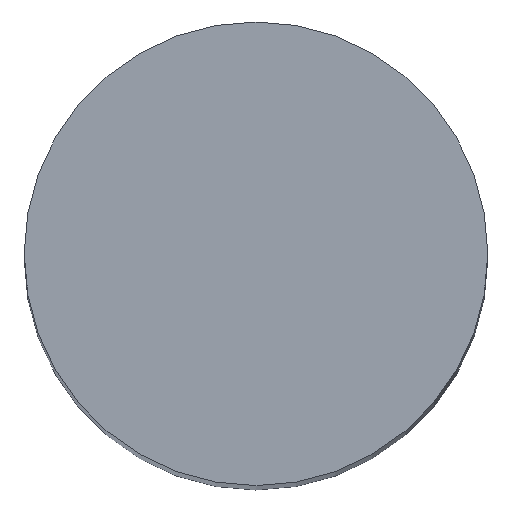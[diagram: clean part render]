
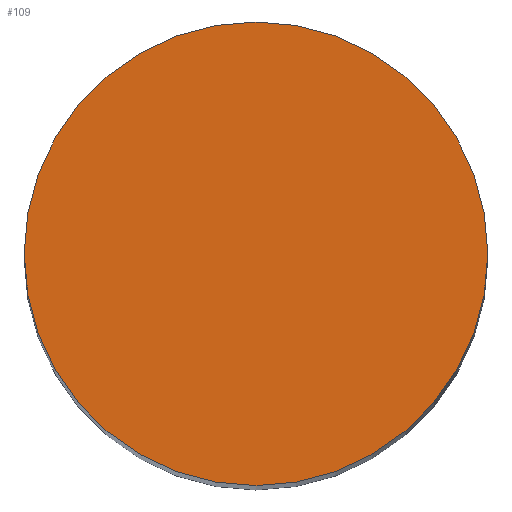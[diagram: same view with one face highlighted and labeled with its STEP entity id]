
A CAD part, top view. The second image highlights one B-rep face of the part: STEP entity #109.
In plain terms, the highlighted planar face has unit normal (0, 0, 1).
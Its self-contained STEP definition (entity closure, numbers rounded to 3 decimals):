
#24 = VERTEX_POINT('',#25);
#25 = CARTESIAN_POINT('',(36.,-30.,392.25));
#32 = CYLINDRICAL_SURFACE('',#33,36.);
#33 = AXIS2_PLACEMENT_3D('',#34,#35,#36);
#34 = CARTESIAN_POINT('',(0.,-30.,0.));
#35 = DIRECTION('',(-0.,-0.,-1.));
#36 = DIRECTION('',(1.,0.,0.));
#51 = EDGE_CURVE('',#24,#24,#52,.T.);
#52 = SURFACE_CURVE('',#53,(#58,#65),.PCURVE_S1.);
#53 = CIRCLE('',#54,36.);
#54 = AXIS2_PLACEMENT_3D('',#55,#56,#57);
#55 = CARTESIAN_POINT('',(0.,-30.,392.25));
#56 = DIRECTION('',(0.,0.,1.));
#57 = DIRECTION('',(1.,0.,0.));
#58 = PCURVE('',#32,#59);
#59 = DEFINITIONAL_REPRESENTATION('',(#60),#64);
#60 = LINE('',#61,#62);
#61 = CARTESIAN_POINT('',(-0.,-392.25));
#62 = VECTOR('',#63,1.);
#63 = DIRECTION('',(-1.,0.));
#64 = ( GEOMETRIC_REPRESENTATION_CONTEXT(2) 
PARAMETRIC_REPRESENTATION_CONTEXT() REPRESENTATION_CONTEXT('2D SPACE',''
  ) );
#65 = PCURVE('',#66,#71);
#66 = PLANE('',#67);
#67 = AXIS2_PLACEMENT_3D('',#68,#69,#70);
#68 = CARTESIAN_POINT('',(0.,-30.,392.25));
#69 = DIRECTION('',(0.,0.,1.));
#70 = DIRECTION('',(1.,0.,-0.));
#71 = DEFINITIONAL_REPRESENTATION('',(#72),#76);
#72 = CIRCLE('',#73,36.);
#73 = AXIS2_PLACEMENT_2D('',#74,#75);
#74 = CARTESIAN_POINT('',(0.,0.));
#75 = DIRECTION('',(1.,0.));
#76 = ( GEOMETRIC_REPRESENTATION_CONTEXT(2) 
PARAMETRIC_REPRESENTATION_CONTEXT() REPRESENTATION_CONTEXT('2D SPACE',''
  ) );
#109 = ADVANCED_FACE('',(#110),#66,.T.);
#110 = FACE_BOUND('',#111,.T.);
#111 = EDGE_LOOP('',(#112));
#112 = ORIENTED_EDGE('',*,*,#51,.T.);
